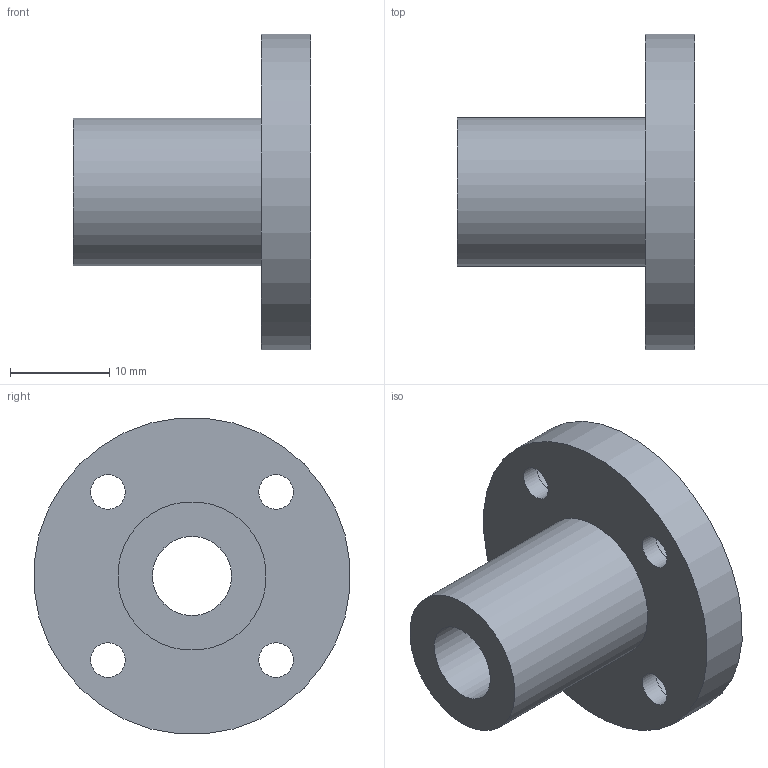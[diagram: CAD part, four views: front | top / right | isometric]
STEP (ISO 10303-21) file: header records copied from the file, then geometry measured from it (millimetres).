
FILE_DESCRIPTION(/* description */ (''),/* implementation_level */ '2;1');
FILE_NAME(/* name */ 'LMF8UU',/* time_stamp */ '2019-07-03T09:08:57+02:00',/* author */ ('VĂ©gh MĂˇtĂ©'),/* organization */ ('Bearing Kft'),/* preprocessor_version */ 'ST-DEVELOPER v16.7',/* originating_system */ 'DEX',/* authorisation */ $);
FILE_SCHEMA (('AUTOMOTIVE_DESIGN {1 0 10303 214 3 1 1}'));
Length unit declared in the file: millimetre
Products named in the file (1): LMF8UU
Bounding box: 24 x 31.88 x 31.88 mm (x, y, z)
Volume: 5748.1 mm3; surface area: 3759.2 mm2
Topology: 1 solids, 1 shells, 315 faces, 786 edges, 524 vertices
Faces by surface type: plane 239, bspline 63, cylinder 13
Full cylindrical faces by diameter (mm): 3.5 x4, 6 x4, 8 x1, 15 x1, 32 x1
Entity records: 11746 total; most frequent: CARTESIAN_POINT 4613, ORIENTED_EDGE 1544, DIRECTION 1178, EDGE_CURVE 772, LINE 620, VECTOR 620, VERTEX_POINT 524, EDGE_LOOP 390
